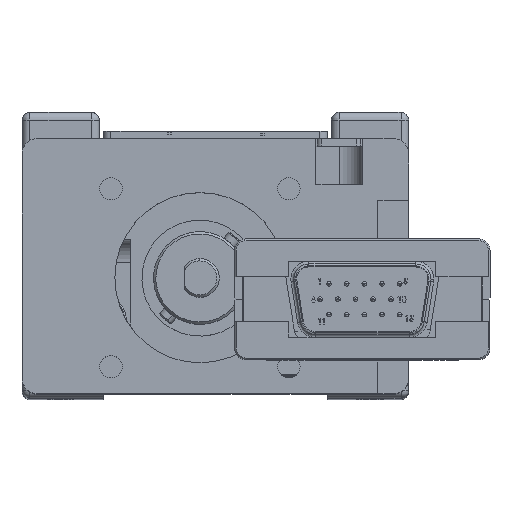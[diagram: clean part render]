
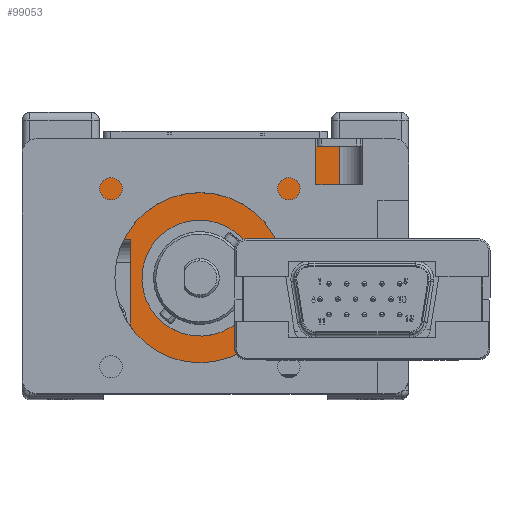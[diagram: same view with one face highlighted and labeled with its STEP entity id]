
A CAD part, top view. The second image highlights one B-rep face of the part: STEP entity #99053.
In plain terms, the highlighted planar face has unit normal (0, 0, 1).
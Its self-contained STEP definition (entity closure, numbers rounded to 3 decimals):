
#149 = AXIS2_PLACEMENT_3D ( 'NONE', #69980, #28508, #78942 ) ;
#1353 = EDGE_CURVE ( 'NONE', #61295, #33717, #14378, .T. ) ;
#1869 = AXIS2_PLACEMENT_3D ( 'NONE', #4820, #81533, #30574 ) ;
#3647 = ORIENTED_EDGE ( 'NONE', *, *, #1353, .T. ) ;
#4208 = CARTESIAN_POINT ( 'NONE',  ( 16., 1.75, 67. ) ) ;
#4686 = DIRECTION ( 'NONE',  ( 0., 1., 0. ) ) ;
#4820 = CARTESIAN_POINT ( 'NONE',  ( -2., 3.75, 67. ) ) ;
#7221 = DIRECTION ( 'NONE',  ( -1., 0., 0. ) ) ;
#8548 = EDGE_CURVE ( 'NONE', #25695, #52426, #45416, .T. ) ;
#9700 = VERTEX_POINT ( 'NONE', #19062 ) ;
#9951 = EDGE_CURVE ( 'NONE', #84179, #86915, #105441, .T. ) ;
#12753 = CARTESIAN_POINT ( 'NONE',  ( -8.928, 0.877, 67. ) ) ;
#13983 = CARTESIAN_POINT ( 'NONE',  ( -2., 8.75, 67. ) ) ;
#14378 = CIRCLE ( 'NONE', #1869, 7.5 ) ;
#15066 = ORIENTED_EDGE ( 'NONE', *, *, #79262, .T. ) ;
#15595 = CARTESIAN_POINT ( 'NONE',  ( -2., 3.75, 67. ) ) ;
#17256 = CARTESIAN_POINT ( 'NONE',  ( -2., 3.75, 67. ) ) ;
#18441 = PLANE ( 'NONE',  #149 ) ;
#19062 = CARTESIAN_POINT ( 'NONE',  ( -11., 8.75, 67. ) ) ;
#19588 = AXIS2_PLACEMENT_3D ( 'NONE', #17256, #51423, #43021 ) ;
#22261 = CARTESIAN_POINT ( 'NONE',  ( 7., 8.75, 67. ) ) ;
#23475 = DIRECTION ( 'NONE',  ( 0., 0., -1. ) ) ;
#25695 = VERTEX_POINT ( 'NONE', #106930 ) ;
#27844 = ORIENTED_EDGE ( 'NONE', *, *, #59281, .T. ) ;
#27950 = LINE ( 'NONE', #43073, #87623 ) ;
#28508 = DIRECTION ( 'NONE',  ( 0., 0., -1. ) ) ;
#28911 = CARTESIAN_POINT ( 'NONE',  ( -16., 20.75, 67. ) ) ;
#30275 = VERTEX_POINT ( 'NONE', #41967 ) ;
#30574 = DIRECTION ( 'NONE',  ( -1., 0., 0. ) ) ;
#30872 = ORIENTED_EDGE ( 'NONE', *, *, #48632, .F. ) ;
#31489 = CIRCLE ( 'NONE', #38683, 7.5 ) ;
#32454 = CARTESIAN_POINT ( 'NONE',  ( 7., -2.575, 67. ) ) ;
#33226 = VECTOR ( 'NONE', #4686, 1000. ) ;
#33717 = VERTEX_POINT ( 'NONE', #101600 ) ;
#35017 = EDGE_CURVE ( 'NONE', #86915, #9700, #81939, .T. ) ;
#35166 = CARTESIAN_POINT ( 'NONE',  ( 16., 20.75, 67. ) ) ;
#37007 = CARTESIAN_POINT ( 'NONE',  ( -16., 1.75, 67. ) ) ;
#38659 = LINE ( 'NONE', #13983, #101736 ) ;
#38683 = AXIS2_PLACEMENT_3D ( 'NONE', #15595, #23475, #7221 ) ;
#39494 = VECTOR ( 'NONE', #65961, 1000. ) ;
#41967 = CARTESIAN_POINT ( 'NONE',  ( 16., 8.75, 67. ) ) ;
#42376 = CARTESIAN_POINT ( 'NONE',  ( 16., 20.75, 67. ) ) ;
#43014 = LINE ( 'NONE', #110240, #46951 ) ;
#43021 = DIRECTION ( 'NONE',  ( 1., 0., 0. ) ) ;
#43073 = CARTESIAN_POINT ( 'NONE',  ( -2., 8.75, 67. ) ) ;
#44234 = EDGE_LOOP ( 'NONE', ( #3647, #15066 ) ) ;
#44877 = DIRECTION ( 'NONE',  ( 0., 1., 0. ) ) ;
#45416 = LINE ( 'NONE', #37007, #98028 ) ;
#46951 = VECTOR ( 'NONE', #76600, 1000. ) ;
#47302 = EDGE_CURVE ( 'NONE', #110783, #30275, #27950, .T. ) ;
#48632 = EDGE_CURVE ( 'NONE', #52426, #71236, #101753, .T. ) ;
#51423 = DIRECTION ( 'NONE',  ( 0., 0., -1. ) ) ;
#52426 = VERTEX_POINT ( 'NONE', #28911 ) ;
#53612 = ORIENTED_EDGE ( 'NONE', *, *, #35017, .F. ) ;
#54542 = CARTESIAN_POINT ( 'NONE',  ( -11., 8.75, 67. ) ) ;
#55173 = DIRECTION ( 'NONE',  ( 0., 1., 0. ) ) ;
#55684 = ORIENTED_EDGE ( 'NONE', *, *, #9951, .F. ) ;
#56024 = DIRECTION ( 'NONE',  ( 1., 0., 0. ) ) ;
#59281 = EDGE_CURVE ( 'NONE', #30275, #71236, #63575, .T. ) ;
#60546 = ORIENTED_EDGE ( 'NONE', *, *, #8548, .F. ) ;
#61295 = VERTEX_POINT ( 'NONE', #12753 ) ;
#62676 = VECTOR ( 'NONE', #55173, 1000. ) ;
#63575 = LINE ( 'NONE', #4208, #62676 ) ;
#63886 = ORIENTED_EDGE ( 'NONE', *, *, #110530, .T. ) ;
#65961 = DIRECTION ( 'NONE',  ( 1., 0., 0. ) ) ;
#69403 = FACE_BOUND ( 'NONE', #44234, .T. ) ;
#69980 = CARTESIAN_POINT ( 'NONE',  ( 16., 1.75, 67. ) ) ;
#71236 = VERTEX_POINT ( 'NONE', #35166 ) ;
#76600 = DIRECTION ( 'NONE',  ( 0., -1., 0. ) ) ;
#77236 = DIRECTION ( 'NONE',  ( 1., 0., 0. ) ) ;
#78374 = FACE_OUTER_BOUND ( 'NONE', #82100, .T. ) ;
#78942 = DIRECTION ( 'NONE',  ( -1., 0., 0. ) ) ;
#79262 = EDGE_CURVE ( 'NONE', #33717, #61295, #31489, .T. ) ;
#81533 = DIRECTION ( 'NONE',  ( 0., 0., -1. ) ) ;
#81939 = LINE ( 'NONE', #54542, #33226 ) ;
#82100 = EDGE_LOOP ( 'NONE', ( #30872, #60546, #63886, #53612, #55684, #86280, #95914, #27844 ) ) ;
#84179 = VERTEX_POINT ( 'NONE', #32454 ) ;
#86280 = ORIENTED_EDGE ( 'NONE', *, *, #89780, .F. ) ;
#86915 = VERTEX_POINT ( 'NONE', #104153 ) ;
#87623 = VECTOR ( 'NONE', #77236, 1000. ) ;
#89780 = EDGE_CURVE ( 'NONE', #110783, #84179, #43014, .T. ) ;
#95914 = ORIENTED_EDGE ( 'NONE', *, *, #47302, .T. ) ;
#98028 = VECTOR ( 'NONE', #44877, 1000. ) ;
#99053 = ADVANCED_FACE ( 'NONE', ( #69403, #78374 ), #18441, .F. ) ;
#101600 = CARTESIAN_POINT ( 'NONE',  ( 4.928, 6.623, 67. ) ) ;
#101736 = VECTOR ( 'NONE', #56024, 1000. ) ;
#101753 = LINE ( 'NONE', #42376, #39494 ) ;
#104153 = CARTESIAN_POINT ( 'NONE',  ( -11., -2.575, 67. ) ) ;
#105441 = CIRCLE ( 'NONE', #19588, 11. ) ;
#106930 = CARTESIAN_POINT ( 'NONE',  ( -16., 8.75, 67. ) ) ;
#110240 = CARTESIAN_POINT ( 'NONE',  ( 7., 8.75, 67. ) ) ;
#110530 = EDGE_CURVE ( 'NONE', #25695, #9700, #38659, .T. ) ;
#110783 = VERTEX_POINT ( 'NONE', #22261 ) ;
